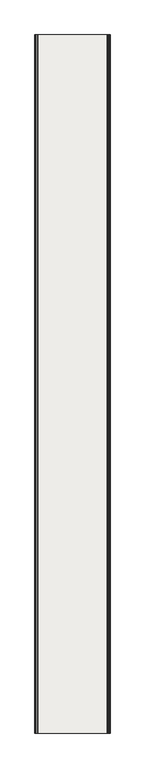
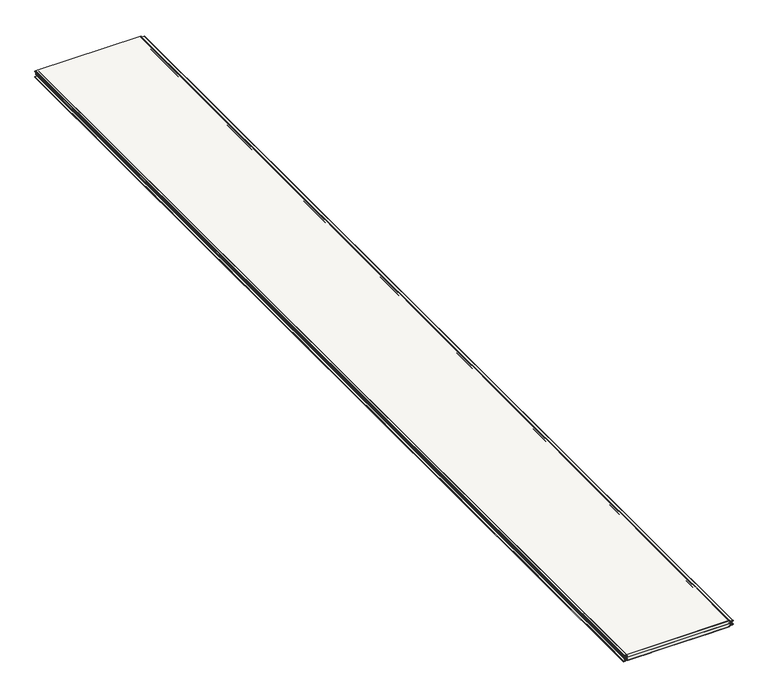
"""IFC4 building model written with IfcOpenShell, lengths in millimetres: covering geometry, Wall sandwich panel SPW-S CORE PIR (single sheet) : -."""

from ifc_helpers import new_model, si_unit, point, frame, frame_2d, origin, place, context, project, spatial, polyline, circle_curve, trimmed, segment, composite_curve, outline, extrude, source, transform, mapped, element, save
from ifc_brep_helpers import plane_surface, cylinder_surface, revolved_surface, advanced_brep


def covering_5f1da1b8(model_context):
    return source(origin(), model_context, "Body", "SolidModel", [
        extrude(outline(composite_curve([segment(trimmed(circle_curve(frame_2d((-37.0000044, -662.3240515)), 1.9999956), [point((-39.0, -662.3240515))], [point((-35.0012272, -662.3938538))], True, "CARTESIAN"), True, "CONTINUOUS"), segment(polyline([(-35.0012272, -662.3938538), (-34.4480424, -646.5535063)]), True, "CONTINUOUS"), segment(trimmed(circle_curve(frame_2d((-29.950784, -646.7105619)), 4.5), [point((-34.4480424, -646.5535063))], [point((-25.4569506, -646.4750579))], False, "CARTESIAN"), True, "CONTINUOUS"), segment(polyline([(-25.4569506, -646.4750579), (-24.890434, -657.2852006)]), True, "CONTINUOUS"), segment(trimmed(circle_curve(frame_2d((-23.3924895, -657.2066993)), 1.5), [point((-24.890434, -657.2852006))], [point((-23.3924895, -658.7066993))], True, "CARTESIAN"), True, "CONTINUOUS"), segment(polyline([(-23.3924895, -658.7066993), (-20.8924895, -658.7066993), (-20.8924895, -659.7066993), (-23.3924895, -659.7066993)]), True, "CONTINUOUS"), segment(trimmed(circle_curve(frame_2d((-23.3924895, -657.2066993)), 2.5), [point((-23.3924895, -659.7066993))], [point((-25.8890636, -657.3375349))], False, "CARTESIAN"), True, "CONTINUOUS"), segment(polyline([(-25.8890636, -657.3375349), (-26.4555803, -646.5273922)]), True, "CONTINUOUS"), segment(trimmed(circle_curve(frame_2d((-29.950784, -646.7105619)), 3.5), [point((-26.4555803, -646.5273922))], [point((-33.4486516, -646.5884076))], True, "CARTESIAN"), True, "CONTINUOUS"), segment(polyline([(-33.4486516, -646.5884076), (-34.0018364, -662.4287551)]), True, "CONTINUOUS"), segment(trimmed(circle_curve(frame_2d((-37.0000044, -662.3240515)), 2.9999956), [point((-34.0018364, -662.4287551))], [point((-40.0, -662.3240515))], False, "CARTESIAN"), True, "CONTINUOUS"), segment(polyline([(-40.0, -662.3240515), (-40.0, -660.2066993), (-39.0, -660.2066993), (-39.0, -662.3240515)]), True, "CONTINUOUS")], self_intersect=False)), frame((0.0, -6000.0, 0.0), z_axis=(0.0, 1.0, 0.0), x_axis=(0.0, 0.0, 1.0)), (0.0, 0.0, 1.0), 6000.0),
        extrude(outline(composite_curve([segment(polyline([(-1.0, -662.3240515), (-1.0, -660.2066993), (0.0, -660.2066993), (0.0, -662.3240515)]), True, "CONTINUOUS"), segment(trimmed(circle_curve(frame_2d((-2.9999956, -662.3240515)), 2.9999956), [point((0.0, -662.3240515))], [point((-5.9981636, -662.4287551))], False, "CARTESIAN"), True, "CONTINUOUS"), segment(polyline([(-5.9981636, -662.4287551), (-6.5513484, -646.5884076)]), True, "CONTINUOUS"), segment(trimmed(circle_curve(frame_2d((-10.049216, -646.7105619)), 3.5), [point((-6.5513484, -646.5884076))], [point((-13.5444197, -646.5273922))], True, "CARTESIAN"), True, "CONTINUOUS"), segment(polyline([(-13.5444197, -646.5273922), (-14.1109364, -657.3375349)]), True, "CONTINUOUS"), segment(trimmed(circle_curve(frame_2d((-16.6075105, -657.2066993)), 2.5), [point((-14.1109364, -657.3375349))], [point((-16.6075105, -659.7066993))], False, "CARTESIAN"), True, "CONTINUOUS"), segment(polyline([(-16.6075105, -659.7066993), (-19.1075105, -659.7066993), (-19.1075105, -658.7066993), (-16.6075105, -658.7066993)]), True, "CONTINUOUS"), segment(trimmed(circle_curve(frame_2d((-16.6075105, -657.2066993)), 1.5), [point((-16.6075105, -658.7066993))], [point((-15.109566, -657.2852006))], True, "CARTESIAN"), True, "CONTINUOUS"), segment(polyline([(-15.109566, -657.2852006), (-14.5430494, -646.4750579)]), True, "CONTINUOUS"), segment(trimmed(circle_curve(frame_2d((-10.049216, -646.7105619)), 4.5), [point((-14.5430494, -646.4750579))], [point((-5.5519576, -646.5535063))], False, "CARTESIAN"), True, "CONTINUOUS"), segment(polyline([(-5.5519576, -646.5535063), (-4.9987728, -662.3938538)]), True, "CONTINUOUS"), segment(trimmed(circle_curve(frame_2d((-2.9999956, -662.3240515)), 1.9999956), [point((-4.9987728, -662.3938538))], [point((-1.0, -662.3240515))], True, "CARTESIAN"), True, "CONTINUOUS")], self_intersect=False)), frame((0.0, -6000.0, 0.0), z_axis=(0.0, 1.0, 0.0), x_axis=(0.0, 0.0, 1.0)), (0.0, 0.0, 1.0), 6000.0),
        advanced_brep(
        [(-43.1186621, 0.0, -39.0), (-41.1186621, 0.0, -37.0), (-41.1186621, 0.0, -34.93), (-39.1884611, 0.0, -32.9312183), (-22.5992017, 0.0, -32.3519086), (-22.43132, 0.0, -27.5379716), (-33.6570079, 0.0, -26.9496582), (-36.5, 0.0, -23.9537696), (-36.5, 0.0, -21.4537696), (-35.5, 0.0, -21.4537696), (-35.5, 0.0, -23.9537696), (-33.6046719, 0.0, -25.9510287), (-22.6550677, 0.0, -26.5248731), (-22.6835162, 0.0, -33.3501612), (-39.1535616, 0.0, -33.9306092), (-40.1186621, 0.0, -34.93), (-40.1186621, 0.0, -37.0), (-43.1186621, 0.0, -40.0), (-90.0275239, 0.0, -40.0), (-91.4098003, 0.0, -39.6), (-135.6275239, 0.0, -39.6), (-137.0098003, 0.0, -40.0), (-181.2275239, 0.0, -40.0), (-182.6098003, 0.0, -39.6), (-226.8275239, 0.0, -39.6), (-228.2098003, 0.0, -40.0), (-272.4275239, 0.0, -40.0), (-273.8098003, 0.0, -39.6), (-318.0275239, 0.0, -39.6), (-319.4098003, 0.0, -40.0), (-363.6275239, 0.0, -40.0), (-365.0098003, 0.0, -39.6), (-409.2275239, 0.0, -39.6), (-410.6098003, 0.0, -40.0), (-454.8275239, 0.0, -40.0), (-456.2098003, 0.0, -39.6), (-500.4275239, 0.0, -39.6), (-501.8098003, 0.0, -40.0), (-546.0275239, 0.0, -40.0), (-547.4098003, 0.0, -39.6), (-591.6275239, 0.0, -39.6), (-593.0098003, 0.0, -40.0), (-637.2275239, 0.0, -40.0), (-638.6098003, 0.0, -39.6), (-660.2066993, 0.0, -39.6), (-660.2066993, 0.0, -39.0), (-638.6098003, -6000.0, -39.6), (-637.2275239, -6000.0, -40.0), (-593.0098003, -6000.0, -40.0), (-591.6275239, -6000.0, -39.6), (-547.4098003, -6000.0, -39.6), (-546.0275239, -6000.0, -40.0), (-501.8098003, -6000.0, -40.0), (-500.4275239, -6000.0, -39.6), (-456.2098003, -6000.0, -39.6), (-454.8275239, -6000.0, -40.0), (-410.6098003, -6000.0, -40.0), (-409.2275239, -6000.0, -39.6), (-365.0098003, -6000.0, -39.6), (-363.6275239, -6000.0, -40.0), (-319.4098003, -6000.0, -40.0), (-318.0275239, -6000.0, -39.6), (-273.8098003, -6000.0, -39.6), (-272.4275239, -6000.0, -40.0), (-228.2098003, -6000.0, -40.0), (-226.8275239, -6000.0, -39.6), (-182.6098003, -6000.0, -39.6), (-181.2275239, -6000.0, -40.0), (-137.0098003, -6000.0, -40.0), (-135.6275239, -6000.0, -39.6), (-91.4098003, -6000.0, -39.6), (-90.0275239, -6000.0, -40.0), (-43.1186621, -6000.0, -40.0), (-40.1186621, -6000.0, -37.0), (-40.1186621, -6000.0, -34.93), (-39.1535616, -6000.0, -33.9306092), (-22.7218558, -6000.0, -33.3568014), (-22.6550677, -6000.0, -26.5248731), (-33.6046719, -6000.0, -25.9510287), (-35.5, -6000.0, -23.9537696), (-35.5, -6000.0, -21.4537696), (-36.5, -6000.0, -21.4537696), (-36.5, -6000.0, -23.9537696), (-33.6570079, -6000.0, -26.9496582), (-22.43132, -6000.0, -27.5379716), (-22.5993141, -6000.0, -32.3486915), (-39.1884611, -6000.0, -32.9312183), (-41.1186621, -6000.0, -34.93), (-41.1186621, -6000.0, -37.0), (-43.1186621, -6000.0, -39.0), (-660.2066993, -6000.0, -39.0), (-660.2066993, -6000.0, -39.6)],
        [
            (0, 1, circle_curve(frame((-43.1186621, 0.0, -37.0), z_axis=(0.0, -1.0, 0.0), x_axis=(1.0, 0.0, 0.0)), 2.0)),
            (1, 2),
            (2, 3, circle_curve(frame((-39.1186621, 0.0, -34.93), z_axis=(0.0, 1.0, 0.0), x_axis=(1.0, 0.0, 0.0)), 2.0)),
            (3, 4),
            (4, 5, circle_curve(frame((-22.6835162, 0.0, -29.9374579), z_axis=(0.0, -1.0, 0.0), x_axis=(1.0, 0.0, 0.0)), 2.4127033)),
            (5, 6),
            (6, 7, circle_curve(frame((-33.5, 0.0, -23.9537696), z_axis=(0.0, 1.0, 0.0), x_axis=(1.0, 0.0, 0.0)), 3.0)),
            (7, 8),
            (8, 9),
            (9, 10),
            (10, 11, circle_curve(frame((-33.5, 0.0, -23.9537696), z_axis=(0.0, -1.0, 0.0), x_axis=(1.0, 0.0, 0.0)), 2.0)),
            (11, 12),
            (12, 13, circle_curve(frame((-22.6835162, 0.0, -29.9374579), z_axis=(0.0, 1.0, 0.0), x_axis=(1.0, 0.0, 0.0)), 3.4127033)),
            (13, 14),
            (14, 15, circle_curve(frame((-39.1186621, 0.0, -34.93), z_axis=(0.0, -1.0, 0.0), x_axis=(1.0, 0.0, 0.0)), 1.0)),
            (15, 16),
            (16, 17, circle_curve(frame((-43.1186621, 0.0, -37.0), z_axis=(0.0, 1.0, 0.0), x_axis=(1.0, 0.0, 0.0)), 3.0)),
            (17, 18),
            (18, 19),
            (19, 20),
            (20, 21),
            (21, 22),
            (22, 23),
            (23, 24),
            (24, 25),
            (25, 26),
            (26, 27),
            (27, 28),
            (28, 29),
            (29, 30),
            (30, 31),
            (31, 32),
            (32, 33),
            (33, 34),
            (34, 35),
            (35, 36),
            (36, 37),
            (37, 38),
            (38, 39),
            (39, 40),
            (40, 41),
            (41, 42),
            (42, 43),
            (43, 44),
            (44, 45),
            (45, 0),
            (46, 47),
            (47, 48),
            (48, 49),
            (49, 50),
            (50, 51),
            (51, 52),
            (52, 53),
            (53, 54),
            (54, 55),
            (55, 56),
            (56, 57),
            (57, 58),
            (58, 59),
            (59, 60),
            (60, 61),
            (61, 62),
            (62, 63),
            (63, 64),
            (64, 65),
            (65, 66),
            (66, 67),
            (67, 68),
            (68, 69),
            (69, 70),
            (70, 71),
            (71, 72),
            (72, 73, circle_curve(frame((-43.1186621, -6000.0, -37.0), z_axis=(0.0, -1.0, 0.0), x_axis=(1.0, 0.0, 0.0)), 3.0)),
            (73, 74),
            (74, 75, circle_curve(frame((-39.1186621, -6000.0, -34.93), z_axis=(0.0, 1.0, 0.0), x_axis=(1.0, 0.0, 0.0)), 1.0)),
            (75, 76),
            (76, 77, circle_curve(frame((-22.6835162, -6000.0, -29.9374579), z_axis=(0.0, -1.0, 0.0), x_axis=(1.0, 0.0, 0.0)), 3.4127033)),
            (77, 78),
            (78, 79, circle_curve(frame((-33.5, -6000.0, -23.9537696), z_axis=(0.0, 1.0, 0.0), x_axis=(1.0, 0.0, 0.0)), 2.0)),
            (79, 80),
            (80, 81),
            (81, 82),
            (82, 83, circle_curve(frame((-33.5, -6000.0, -23.9537696), z_axis=(0.0, -1.0, 0.0), x_axis=(1.0, 0.0, 0.0)), 3.0)),
            (83, 84),
            (84, 85, circle_curve(frame((-22.6835162, -6000.0, -29.9374579), z_axis=(0.0, 1.0, 0.0), x_axis=(1.0, 0.0, 0.0)), 2.4127033)),
            (85, 86),
            (86, 87, circle_curve(frame((-39.1186621, -6000.0, -34.93), z_axis=(0.0, -1.0, 0.0), x_axis=(1.0, 0.0, 0.0)), 2.0)),
            (87, 88),
            (88, 89, circle_curve(frame((-43.1186621, -6000.0, -37.0), z_axis=(0.0, 1.0, 0.0), x_axis=(1.0, 0.0, 0.0)), 2.0)),
            (89, 90),
            (90, 91),
            (91, 46),
            (89, 0),
            (45, 90),
            (2, 87),
            (86, 3),
            (1, 88),
            (85, 4),
            (5, 84),
            (83, 6),
            (82, 7),
            (81, 8),
            (80, 9),
            (16, 73),
            (72, 17),
            (15, 74),
            (14, 75),
            (13, 76),
            (11, 78),
            (77, 12),
            (10, 79),
            (71, 18),
            (70, 19),
            (69, 20),
            (68, 21),
            (67, 22),
            (66, 23),
            (65, 24),
            (64, 25),
            (63, 26),
            (62, 27),
            (61, 28),
            (60, 29),
            (59, 30),
            (58, 31),
            (57, 32),
            (56, 33),
            (55, 34),
            (54, 35),
            (53, 36),
            (52, 37),
            (51, 38),
            (50, 39),
            (49, 40),
            (48, 41),
            (47, 42),
            (46, 43),
            (91, 44),
        ],
        [
            plane_surface(frame((-35.0, 0.0, -40.0), z_axis=(0.0, 1.0, 0.0), x_axis=(1.0, 0.0, 0.0))),
            plane_surface(frame((-35.0, -6000.0, -40.0), z_axis=(0.0, -1.0, 0.0), x_axis=(1.0, 0.0, 0.0))),
            plane_surface(frame((-1185.0, 0.0, -39.0), z_axis=(0.0, 0.0, 1.0), x_axis=(0.0, -1.0, 0.0))),
            cylinder_surface(frame((-39.1186621, 0.0, -34.93), z_axis=(0.0, 1.0, 0.0), x_axis=(1.0, 0.0, 0.0)), 2.0),
            plane_surface(frame((-41.1186621, 0.0, -37.0), z_axis=(-1.0, 0.0, 0.0), x_axis=(0.0, -1.0, 0.0))),
            revolved_surface(polyline([(-41.1186621, -6000.0, -37.0), (-41.1186621, 0.0, -37.0)]), (-43.1186621, 0.0, -37.0), (0.0, -1.0, 0.0)),
            plane_surface(frame((-39.1884611, 0.0, -32.9312183), z_axis=(-0.03489949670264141, 0.0, 0.9993908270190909), x_axis=(0.0, -1.0, 0.0))),
            plane_surface(frame((-22.43132, 0.0, -27.5379716), z_axis=(-0.052335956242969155, 0.0, -0.9986295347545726), x_axis=(0.0, -1.0, 0.0))),
            cylinder_surface(frame((-33.5, 0.0, -23.9537696), z_axis=(0.0, 1.0, 0.0), x_axis=(1.0, 0.0, 0.0)), 3.0),
            plane_surface(frame((-36.5, 0.0, -23.9537696), z_axis=(-1.0, 0.0, 0.0), x_axis=(0.0, -1.0, 0.0))),
            plane_surface(frame((-36.5, 0.0, -21.4537696), z_axis=(0.0, 0.0, 1.0), x_axis=(0.0, -1.0, 0.0))),
            cylinder_surface(frame((-43.1186621, 0.0, -37.0), z_axis=(0.0, 1.0, 0.0), x_axis=(1.0, 0.0, 0.0)), 3.0),
            plane_surface(frame((-40.1186621, 0.0, -34.93), z_axis=(1.0, 0.0, 0.0), x_axis=(0.0, -1.0, 0.0))),
            revolved_surface(polyline([(-38.1186621, -6000.0, -34.93), (-38.1186621, 0.0, -34.93)]), (-39.1186621, 0.0, -34.93), (0.0, -1.0, 0.0)),
            plane_surface(frame((-22.7218558, 0.0, -33.3568014), z_axis=(0.0348994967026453, 0.0, -0.9993908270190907), x_axis=(0.0, -1.0, 0.0))),
            plane_surface(frame((-33.6046719, 0.0, -25.9510287), z_axis=(0.05233595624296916, 0.0, 0.9986295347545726), x_axis=(0.0, -1.0, 0.0))),
            revolved_surface(polyline([(-31.5, -6000.0, -23.9537696), (-31.5, 0.0, -23.9537696)]), (-33.5, 0.0, -23.9537696), (0.0, -1.0, 0.0)),
            cylinder_surface(frame((-22.6835162, 0.0, -29.9374579), z_axis=(0.0, 1.0, 0.0), x_axis=(1.0, 0.0, 0.0)), 3.4127033),
            revolved_surface(polyline([(-20.2708129, -6000.0, -29.9374579), (-20.2708129, 0.0, -29.9374579)]), (-22.6835162, 0.0, -29.9374579), (0.0, -1.0, 0.0)),
            plane_surface(frame((-35.5, 0.0, -21.4537696), z_axis=(1.0, 0.0, 0.0), x_axis=(0.0, -1.0, 0.0))),
            plane_surface(frame((-43.1186621, 0.0, -40.0), z_axis=(0.0, 0.0, -1.0), x_axis=(0.0, -1.0, 0.0))),
            plane_surface(frame((-90.0275239, 0.0, -40.0), z_axis=(-0.27797301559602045, 0.0, -0.9605888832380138), x_axis=(0.0, -1.0, 0.0))),
            plane_surface(frame((-91.4098003, 0.0, -39.6), z_axis=(0.0, 0.0, -1.0), x_axis=(0.0, -1.0, 0.0))),
            plane_surface(frame((-135.6275239, 0.0, -39.6), z_axis=(0.27797301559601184, 0.0, -0.9605888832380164), x_axis=(0.0, -1.0, 0.0))),
            plane_surface(frame((-137.0098003, 0.0, -40.0), z_axis=(0.0, 0.0, -1.0), x_axis=(0.0, -1.0, 0.0))),
            plane_surface(frame((-181.2275239, 0.0, -40.0), z_axis=(-0.27797301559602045, 0.0, -0.9605888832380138), x_axis=(0.0, -1.0, 0.0))),
            plane_surface(frame((-182.6098003, 0.0, -39.6), z_axis=(0.0, 0.0, -1.0), x_axis=(0.0, -1.0, 0.0))),
            plane_surface(frame((-226.8275239, 0.0, -39.6), z_axis=(0.27797301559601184, 0.0, -0.9605888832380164), x_axis=(0.0, -1.0, 0.0))),
            plane_surface(frame((-228.2098003, 0.0, -40.0), z_axis=(0.0, 0.0, -1.0), x_axis=(0.0, -1.0, 0.0))),
            plane_surface(frame((-272.4275239, 0.0, -40.0), z_axis=(-0.27797301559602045, 0.0, -0.9605888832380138), x_axis=(0.0, -1.0, 0.0))),
            plane_surface(frame((-273.8098003, 0.0, -39.6), z_axis=(0.0, 0.0, -1.0), x_axis=(0.0, -1.0, 0.0))),
            plane_surface(frame((-318.0275239, 0.0, -39.6), z_axis=(0.27797301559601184, 0.0, -0.9605888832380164), x_axis=(0.0, -1.0, 0.0))),
            plane_surface(frame((-319.4098003, 0.0, -40.0), z_axis=(0.0, 0.0, -1.0), x_axis=(0.0, -1.0, 0.0))),
            plane_surface(frame((-363.6275239, 0.0, -40.0), z_axis=(-0.27797301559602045, 0.0, -0.9605888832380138), x_axis=(0.0, -1.0, 0.0))),
            plane_surface(frame((-365.0098003, 0.0, -39.6), z_axis=(0.0, 0.0, -1.0), x_axis=(0.0, -1.0, 0.0))),
            plane_surface(frame((-409.2275239, 0.0, -39.6), z_axis=(0.27797301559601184, 0.0, -0.9605888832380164), x_axis=(0.0, -1.0, 0.0))),
            plane_surface(frame((-410.6098003, 0.0, -40.0), z_axis=(0.0, 0.0, -1.0), x_axis=(0.0, -1.0, 0.0))),
            plane_surface(frame((-454.8275239, 0.0, -40.0), z_axis=(-0.27797301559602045, 0.0, -0.9605888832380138), x_axis=(0.0, -1.0, 0.0))),
            plane_surface(frame((-456.2098003, 0.0, -39.6), z_axis=(0.0, 0.0, -1.0), x_axis=(0.0, -1.0, 0.0))),
            plane_surface(frame((-500.4275239, 0.0, -39.6), z_axis=(0.27797301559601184, 0.0, -0.9605888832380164), x_axis=(0.0, -1.0, 0.0))),
            plane_surface(frame((-501.8098003, 0.0, -40.0), z_axis=(0.0, 0.0, -1.0), x_axis=(0.0, -1.0, 0.0))),
            plane_surface(frame((-546.0275239, 0.0, -40.0), z_axis=(-0.27797301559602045, 0.0, -0.9605888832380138), x_axis=(0.0, -1.0, 0.0))),
            plane_surface(frame((-547.4098003, 0.0, -39.6), z_axis=(0.0, 0.0, -1.0), x_axis=(0.0, -1.0, 0.0))),
            plane_surface(frame((-591.6275239, 0.0, -39.6), z_axis=(0.27797301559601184, 0.0, -0.9605888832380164), x_axis=(0.0, -1.0, 0.0))),
            plane_surface(frame((-593.0098003, 0.0, -40.0), z_axis=(0.0, 0.0, -1.0), x_axis=(0.0, -1.0, 0.0))),
            plane_surface(frame((-637.2275239, 0.0, -40.0), z_axis=(-0.27797301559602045, 0.0, -0.9605888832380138), x_axis=(0.0, -1.0, 0.0))),
            plane_surface(frame((-638.6098003, 0.0, -39.6), z_axis=(0.0, 0.0, -1.0), x_axis=(0.0, -1.0, 0.0))),
            plane_surface(frame((-660.2066993, -6000.0, -41.875), z_axis=(-1.0, 0.0, 0.0), x_axis=(0.0, 1.0, 0.0))),
        ],
        [
            (0, [[1, 2, 3, 4, 5, 6, 7, 8, 9, 10, 11, 12, 13, 14, 15, 16, 17, 18, 19, 20, 21, 22, 23, 24, 25, 26, 27, 28, 29, 30, 31, 32, 33, 34, 35, 36, 37, 38, 39, 40, 41, 42, 43, 44, 45, 46]]),
            (1, [[47, 48, 49, 50, 51, 52, 53, 54, 55, 56, 57, 58, 59, 60, 61, 62, 63, 64, 65, 66, 67, 68, 69, 70, 71, 72, 73, 74, 75, 76, 77, 78, 79, 80, 81, 82, 83, 84, 85, 86, 87, 88, 89, 90, 91, 92]]),
            (2, [[93, -46, 94, -90]]),
            (3, [[-3, 95, -87, 96]]),
            (4, [[-2, 97, -88, -95]]),
            (5, [[-1, -93, -89, -97]]),
            (6, [[-4, -96, -86, 98]]),
            (7, [[-6, 99, -84, 100]]),
            (8, [[-7, -100, -83, 101]]),
            (9, [[-8, -101, -82, 102]]),
            (10, [[-9, -102, -81, 103]]),
            (11, [[-17, 104, -73, 105]]),
            (12, [[-16, 106, -74, -104]]),
            (13, [[-15, 107, -75, -106]]),
            (14, [[-14, 108, -76, -107]]),
            (15, [[-12, 109, -78, 110]]),
            (16, [[-11, 111, -79, -109]]),
            (17, [[-13, -110, -77, -108]]),
            (18, [[-5, -98, -85, -99]]),
            (19, [[-10, -103, -80, -111]]),
            (20, [[-18, -105, -72, 112]]),
            (21, [[-19, -112, -71, 113]]),
            (22, [[-20, -113, -70, 114]]),
            (23, [[-21, -114, -69, 115]]),
            (24, [[-22, -115, -68, 116]]),
            (25, [[-23, -116, -67, 117]]),
            (26, [[-24, -117, -66, 118]]),
            (27, [[-25, -118, -65, 119]]),
            (28, [[-26, -119, -64, 120]]),
            (29, [[-27, -120, -63, 121]]),
            (30, [[-28, -121, -62, 122]]),
            (31, [[-29, -122, -61, 123]]),
            (32, [[-30, -123, -60, 124]]),
            (33, [[-31, -124, -59, 125]]),
            (34, [[-32, -125, -58, 126]]),
            (35, [[-33, -126, -57, 127]]),
            (36, [[-34, -127, -56, 128]]),
            (37, [[-35, -128, -55, 129]]),
            (38, [[-36, -129, -54, 130]]),
            (39, [[-37, -130, -53, 131]]),
            (40, [[-38, -131, -52, 132]]),
            (41, [[-39, -132, -51, 133]]),
            (42, [[-40, -133, -50, 134]]),
            (43, [[-41, -134, -49, 135]]),
            (44, [[-42, -135, -48, 136]]),
            (45, [[-43, -136, -47, 137]]),
            (46, [[-137, -92, 138, -44]]),
            (47, [[-45, -138, -91, -94]]),
        ],
    ),
        advanced_brep(
        [(-660.2066993, 0.0, -1.0), (-660.2066993, 0.0, 0.0), (-43.1186621, 0.0, 0.0), (-40.1186621, 0.0, -3.0), (-40.1186621, 0.0, -5.07), (-39.1535616, 0.0, -6.0693908), (-22.7218558, 0.0, -6.6431986), (-22.6835162, 0.0, -13.4752455), (-33.6046719, 0.0, -14.0489713), (-35.5, 0.0, -16.0462304), (-35.5, 0.0, -18.5462304), (-36.5, 0.0, -18.5462304), (-36.5, 0.0, -16.0462304), (-33.6570079, 0.0, -13.0503418), (-22.43132, 0.0, -12.4620284), (-22.5993141, 0.0, -7.6513085), (-39.1884611, 0.0, -7.0687817), (-41.1186621, 0.0, -5.07), (-41.1186621, 0.0, -3.0), (-43.1186621, 0.0, -1.0), (-660.2066993, -6000.0, -1.0), (-43.1186621, -6000.0, -1.0), (-41.1186621, -6000.0, -3.0), (-41.1186621, -6000.0, -5.07), (-39.1884611, -6000.0, -7.0687817), (-22.5992017, -6000.0, -7.6480914), (-22.43132, -6000.0, -12.4620284), (-33.6570079, -6000.0, -13.0503418), (-36.5, -6000.0, -16.0462304), (-36.5, -6000.0, -18.5462304), (-35.5, -6000.0, -18.5462304), (-35.5, -6000.0, -16.0462304), (-33.6046719, -6000.0, -14.0489713), (-22.6071775, -6000.0, -13.4726171), (-22.6835162, -6000.0, -6.6498388), (-39.1535616, -6000.0, -6.0693908), (-40.1186621, -6000.0, -5.07), (-40.1186621, -6000.0, -3.0), (-43.1186621, -6000.0, 0.0), (-660.2066993, -6000.0, 0.0)],
        [
            (0, 1),
            (1, 2),
            (2, 3, circle_curve(frame((-43.1186621, 0.0, -3.0), z_axis=(0.0, 1.0, 0.0), x_axis=(1.0, 0.0, 0.0)), 3.0)),
            (3, 4),
            (4, 5, circle_curve(frame((-39.1186621, 0.0, -5.07), z_axis=(0.0, -1.0, 0.0), x_axis=(1.0, 0.0, 0.0)), 1.0)),
            (5, 6),
            (6, 7, circle_curve(frame((-22.6835162, 0.0, -10.0625421), z_axis=(0.0, 1.0, 0.0), x_axis=(1.0, 0.0, 0.0)), 3.4127033)),
            (7, 8),
            (8, 9, circle_curve(frame((-33.5, 0.0, -16.0462304), z_axis=(0.0, -1.0, 0.0), x_axis=(1.0, 0.0, 0.0)), 2.0)),
            (9, 10),
            (10, 11),
            (11, 12),
            (12, 13, circle_curve(frame((-33.5, 0.0, -16.0462304), z_axis=(0.0, 1.0, 0.0), x_axis=(1.0, 0.0, 0.0)), 3.0)),
            (13, 14),
            (14, 15, circle_curve(frame((-22.6835162, 0.0, -10.0625421), z_axis=(0.0, -1.0, 0.0), x_axis=(1.0, 0.0, 0.0)), 2.4127033)),
            (15, 16),
            (16, 17, circle_curve(frame((-39.1186621, 0.0, -5.07), z_axis=(0.0, 1.0, 0.0), x_axis=(1.0, 0.0, 0.0)), 2.0)),
            (17, 18),
            (18, 19, circle_curve(frame((-43.1186621, 0.0, -3.0), z_axis=(0.0, -1.0, 0.0), x_axis=(1.0, 0.0, 0.0)), 2.0)),
            (19, 0),
            (20, 21),
            (21, 22, circle_curve(frame((-43.1186621, -6000.0, -3.0), z_axis=(0.0, 1.0, 0.0), x_axis=(1.0, 0.0, 0.0)), 2.0)),
            (22, 23),
            (23, 24, circle_curve(frame((-39.1186621, -6000.0, -5.07), z_axis=(0.0, -1.0, 0.0), x_axis=(1.0, 0.0, 0.0)), 2.0)),
            (24, 25),
            (25, 26, circle_curve(frame((-22.6835162, -6000.0, -10.0625421), z_axis=(0.0, 1.0, 0.0), x_axis=(1.0, 0.0, 0.0)), 2.4127033)),
            (26, 27),
            (27, 28, circle_curve(frame((-33.5, -6000.0, -16.0462304), z_axis=(0.0, -1.0, 0.0), x_axis=(1.0, 0.0, 0.0)), 3.0)),
            (28, 29),
            (29, 30),
            (30, 31),
            (31, 32, circle_curve(frame((-33.5, -6000.0, -16.0462304), z_axis=(0.0, 1.0, 0.0), x_axis=(1.0, 0.0, 0.0)), 2.0)),
            (32, 33),
            (33, 34, circle_curve(frame((-22.6835162, -6000.0, -10.0625421), z_axis=(0.0, -1.0, 0.0), x_axis=(1.0, 0.0, 0.0)), 3.4127033)),
            (34, 35),
            (35, 36, circle_curve(frame((-39.1186621, -6000.0, -5.07), z_axis=(0.0, 1.0, 0.0), x_axis=(1.0, 0.0, 0.0)), 1.0)),
            (36, 37),
            (37, 38, circle_curve(frame((-43.1186621, -6000.0, -3.0), z_axis=(0.0, -1.0, 0.0), x_axis=(1.0, 0.0, 0.0)), 3.0)),
            (38, 39),
            (39, 20),
            (19, 21),
            (20, 0),
            (1, 39),
            (38, 2),
            (16, 24),
            (23, 17),
            (22, 18),
            (15, 25),
            (13, 27),
            (26, 14),
            (10, 30),
            (29, 11),
            (12, 28),
            (4, 36),
            (35, 5),
            (9, 31),
            (8, 32),
            (7, 33),
            (6, 34),
            (37, 3),
        ],
        [
            plane_surface(frame((-35.0, 0.0, -1.0), z_axis=(0.0, 1.0, 0.0), x_axis=(1.0, 0.0, 0.0))),
            plane_surface(frame((-35.0, -6000.0, -1.0), z_axis=(0.0, -1.0, 0.0), x_axis=(1.0, 0.0, 0.0))),
            plane_surface(frame((-43.1186621, 0.0, -1.0), z_axis=(0.0, 0.0, -1.0), x_axis=(0.0, -1.0, 0.0))),
            plane_surface(frame((-660.2066993, 0.0, 0.0), z_axis=(0.0, 0.0, 1.0), x_axis=(0.0, -1.0, 0.0))),
            cylinder_surface(frame((-39.1186621, 0.0, -5.07), z_axis=(0.0, 1.0, 0.0), x_axis=(1.0, 0.0, 0.0)), 2.0),
            plane_surface(frame((-41.1186621, 0.0, -5.07), z_axis=(-1.0, 0.0, 0.0), x_axis=(0.0, -1.0, 0.0))),
            revolved_surface(polyline([(-41.1186621, -6000.0, -3.0), (-41.1186621, 0.0, -3.0)]), (-43.1186621, 0.0, -3.0), (0.0, -1.0, 0.0)),
            plane_surface(frame((-22.5992017, 0.0, -7.6480914), z_axis=(-0.034899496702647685, 0.0, -0.9993908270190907), x_axis=(0.0, -1.0, 0.0))),
            plane_surface(frame((-33.6570079, 0.0, -13.0503418), z_axis=(-0.05233595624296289, 0.0, 0.998629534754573), x_axis=(0.0, -1.0, 0.0))),
            plane_surface(frame((-35.5, 0.0, -18.5462304), z_axis=(0.0, 0.0, -1.0), x_axis=(0.0, -1.0, 0.0))),
            cylinder_surface(frame((-33.5, 0.0, -16.0462304), z_axis=(0.0, 1.0, 0.0), x_axis=(1.0, 0.0, 0.0)), 3.0),
            plane_surface(frame((-36.5, 0.0, -18.5462304), z_axis=(-1.0, 0.0, 0.0), x_axis=(0.0, -1.0, 0.0))),
            revolved_surface(polyline([(-38.1186621, -6000.0, -5.07), (-38.1186621, 0.0, -5.07)]), (-39.1186621, 0.0, -5.07), (0.0, -1.0, 0.0)),
            plane_surface(frame((-35.5, 0.0, -16.0462304), z_axis=(1.0, 0.0, 0.0), x_axis=(0.0, -1.0, 0.0))),
            revolved_surface(polyline([(-31.5, -6000.0, -16.0462304), (-31.5, 0.0, -16.0462304)]), (-33.5, 0.0, -16.0462304), (0.0, -1.0, 0.0)),
            plane_surface(frame((-22.6071775, 0.0, -13.4726171), z_axis=(0.052335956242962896, 0.0, -0.998629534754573), x_axis=(0.0, -1.0, 0.0))),
            revolved_surface(polyline([(-20.2708129, -6000.0, -10.0625421), (-20.2708129, 0.0, -10.0625421)]), (-22.6835162, 0.0, -10.0625421), (0.0, -1.0, 0.0)),
            cylinder_surface(frame((-22.6835162, 0.0, -10.0625421), z_axis=(0.0, 1.0, 0.0), x_axis=(1.0, 0.0, 0.0)), 3.4127033),
            plane_surface(frame((-660.2066993, 0.0, -1.0), z_axis=(-1.0, 0.0, 0.0), x_axis=(0.0, -1.0, 0.0))),
            cylinder_surface(frame((-43.1186621, 0.0, -3.0), z_axis=(0.0, 1.0, 0.0), x_axis=(1.0, 0.0, 0.0)), 3.0),
            plane_surface(frame((-40.1186621, 0.0, -3.0), z_axis=(1.0, 0.0, 0.0), x_axis=(0.0, -1.0, 0.0))),
            plane_surface(frame((-39.1535616, 0.0, -6.0693908), z_axis=(0.03489949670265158, 0.0, 0.9993908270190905), x_axis=(0.0, -1.0, 0.0))),
        ],
        [
            (0, [[1, 2, 3, 4, 5, 6, 7, 8, 9, 10, 11, 12, 13, 14, 15, 16, 17, 18, 19, 20]]),
            (1, [[21, 22, 23, 24, 25, 26, 27, 28, 29, 30, 31, 32, 33, 34, 35, 36, 37, 38, 39, 40]]),
            (2, [[-20, 41, -21, 42]]),
            (3, [[-2, 43, -39, 44]]),
            (4, [[-17, 45, -24, 46]]),
            (5, [[-18, -46, -23, 47]]),
            (6, [[-19, -47, -22, -41]]),
            (7, [[-16, 48, -25, -45]]),
            (8, [[-14, 49, -27, 50]]),
            (9, [[-11, 51, -30, 52]]),
            (10, [[-13, 53, -28, -49]]),
            (11, [[-12, -52, -29, -53]]),
            (12, [[-5, 54, -36, 55]]),
            (13, [[-10, 56, -31, -51]]),
            (14, [[-9, 57, -32, -56]]),
            (15, [[-8, 58, -33, -57]]),
            (16, [[-15, -50, -26, -48]]),
            (17, [[-7, 59, -34, -58]]),
            (18, [[-1, -42, -40, -43]]),
            (19, [[-3, -44, -38, 60]]),
            (20, [[-4, -60, -37, -54]]),
            (21, [[-6, -55, -35, -59]]),
        ],
    ),
        advanced_brep(
        [(-662.3938538, -6000.0, -35.0012272), (-662.3938538, 0.0, -35.0012272), (-662.3240515, 0.0, -39.0), (-662.3240515, -6000.0, -39.0), (-646.5535063, -6000.0, -34.4480424), (-646.5535063, 0.0, -34.4480424), (-646.4750579, -6000.0, -25.4569506), (-646.4750579, 0.0, -25.4569506), (-657.2852006, -6000.0, -24.890434), (-657.2852006, 0.0, -24.890434), (-658.7066993, -6000.0, -23.3924895), (-658.7066993, 0.0, -23.3924895), (-658.7066993, -6000.0, -20.0), (-658.7066993, 0.0, -20.0), (-660.2066993, -6000.0, -39.0), (-44.6192414, -6000.0, -39.0), (-43.1186621, -6000.0, -39.0), (-41.1186621, -6000.0, -37.0), (-41.1186621, -6000.0, -34.93), (-39.1884611, -6000.0, -32.9312183), (-22.5992017, -6000.0, -32.3519086), (-22.1786572, -6000.0, -27.5781667), (-33.6570078, -6000.0, -26.9496582), (-36.5, -6000.0, -23.9537696), (-36.5, -6000.0, -20.0), (-660.2066993, 0.0, -39.0), (-36.5, 0.0, -20.0), (-36.5, 0.0, -23.9537696), (-33.6570078, 0.0, -26.9496582), (-22.1786572, 0.0, -27.5781667), (-22.5993141, 0.0, -32.3486915), (-39.1884611, 0.0, -32.9312183), (-41.1186621, 0.0, -34.93), (-41.1186621, 0.0, -37.0), (-43.1186621, 0.0, -39.0), (-44.6192414, 0.0, -39.0)],
        [
            (0, 1),
            (1, 2, circle_curve(frame((-662.3240515, 0.0, -37.0000044), z_axis=(0.0, -1.0, 0.0), x_axis=(-1.0, 0.0, 0.0)), 1.9999956)),
            (2, 3),
            (3, 0, circle_curve(frame((-662.3240515, -6000.0, -37.0000044), z_axis=(0.0, 1.0, 0.0), x_axis=(-1.0, 0.0, 0.0)), 1.9999956)),
            (0, 4),
            (4, 5),
            (5, 1),
            (4, 6, circle_curve(frame((-646.7105619, -6000.0, -29.950784), z_axis=(0.0, -1.0, 0.0), x_axis=(-1.0, 0.0, 0.0)), 4.5)),
            (6, 7),
            (7, 5, circle_curve(frame((-646.7105619, 0.0, -29.950784), z_axis=(0.0, 1.0, 0.0), x_axis=(-1.0, 0.0, 0.0)), 4.5)),
            (6, 8),
            (8, 9),
            (9, 7),
            (8, 10, circle_curve(frame((-657.2066993, -6000.0, -23.3924895), z_axis=(0.0, 1.0, 0.0), x_axis=(-1.0, 0.0, 0.0)), 1.5)),
            (10, 11),
            (11, 9, circle_curve(frame((-657.2066993, 0.0, -23.3924895), z_axis=(0.0, -1.0, 0.0), x_axis=(-1.0, 0.0, 0.0)), 1.5)),
            (10, 12),
            (12, 13),
            (13, 11),
            (3, 14),
            (14, 15),
            (15, 16),
            (16, 17, circle_curve(frame((-43.1186621, -6000.0, -37.0), z_axis=(0.0, -1.0, 0.0), x_axis=(-1.0, 0.0, 0.0)), 2.0)),
            (17, 18),
            (18, 19, circle_curve(frame((-39.1186621, -6000.0, -34.93), z_axis=(0.0, 1.0, 0.0), x_axis=(-1.0, 0.0, 0.0)), 2.0)),
            (19, 20),
            (20, 21, circle_curve(frame((-22.6835162, -6000.0, -29.9374579), z_axis=(0.0, -1.0, 0.0), x_axis=(-1.0, 0.0, 0.0)), 2.4127033)),
            (21, 22),
            (22, 23, circle_curve(frame((-33.5, -6000.0, -23.9537696), z_axis=(0.0, 1.0, 0.0), x_axis=(-1.0, 0.0, 0.0)), 3.0)),
            (23, 24),
            (24, 12),
            (25, 2),
            (13, 26),
            (26, 27),
            (27, 28, circle_curve(frame((-33.5, 0.0, -23.9537696), z_axis=(0.0, -1.0, 0.0), x_axis=(-1.0, 0.0, 0.0)), 3.0)),
            (28, 29),
            (29, 30, circle_curve(frame((-22.6835162, 0.0, -29.9374579), z_axis=(0.0, 1.0, 0.0), x_axis=(-1.0, 0.0, 0.0)), 2.4127033)),
            (30, 31),
            (31, 32, circle_curve(frame((-39.1186621, 0.0, -34.93), z_axis=(0.0, -1.0, 0.0), x_axis=(-1.0, 0.0, 0.0)), 2.0)),
            (32, 33),
            (33, 34, circle_curve(frame((-43.1186621, 0.0, -37.0), z_axis=(0.0, 1.0, 0.0), x_axis=(-1.0, 0.0, 0.0)), 2.0)),
            (34, 35),
            (35, 25),
            (24, 26),
            (34, 16),
            (23, 27),
            (22, 28),
            (21, 29),
            (20, 30),
            (19, 31),
            (18, 32),
            (17, 33),
        ],
        [
            cylinder_surface(frame((-662.3240515, -6000.0, -37.0000044), z_axis=(0.0, 1.0, 0.0), x_axis=(-1.0, 0.0, 0.0)), 1.9999956),
            plane_surface(frame((-662.3938538, -6000.0, -35.0012272), z_axis=(-0.034901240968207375, 0.0, 0.9993907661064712), x_axis=(0.0, 1.0, 0.0))),
            revolved_surface(polyline([(-651.2105619, -6000.0, -29.950784), (-651.2105619, 0.0, -29.950784)]), (-646.7105619, -6000.0, -29.950784), (0.0, -1.0, 0.0)),
            plane_surface(frame((-646.4750579, -6000.0, -25.4569506), z_axis=(-0.05233421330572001, 0.0, -0.9986296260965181), x_axis=(0.0, 1.0, 0.0))),
            cylinder_surface(frame((-657.2066993, -6000.0, -23.3924895), z_axis=(0.0, 1.0, 0.0), x_axis=(-1.0, 0.0, 0.0)), 1.5),
            plane_surface(frame((-658.7066993, -6000.0, -23.3924895), z_axis=(-1.0, 0.0, 0.0), x_axis=(0.0, 1.0, 0.0))),
            plane_surface(frame((-690.2066993, -6000.0, -20.0), z_axis=(0.0, -1.0, 0.0), x_axis=(-1.0, 0.0, 0.0))),
            plane_surface(frame((-690.2066993, 0.0, -20.0), z_axis=(0.0, 1.0, 0.0), x_axis=(1.0, 0.0, 0.0))),
            plane_surface(frame((15.0, -6000.0, -20.0), z_axis=(0.0, 0.0, 1.0), x_axis=(0.0, 1.0, 0.0))),
            plane_surface(frame((-690.2066993, -6000.0, -39.0), z_axis=(0.0, 0.0, -1.0), x_axis=(0.0, 1.0, 0.0))),
            plane_surface(frame((-36.5, -6000.0, -16.0462304), z_axis=(1.0, 0.0, 0.0), x_axis=(0.0, 1.0, 0.0))),
            revolved_surface(polyline([(-36.5, -6000.0, -23.9537696), (-36.5, 0.0, -23.9537696)]), (-33.5, -6000.0, -23.9537696), (0.0, -1.0, 0.0)),
            plane_surface(frame((-33.6570078, -6000.0, -26.9496582), z_axis=(0.05467409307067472, 0.0, 0.9985042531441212), x_axis=(0.0, 1.0, 0.0))),
            cylinder_surface(frame((-22.6835162, -6000.0, -29.9374579), z_axis=(0.0, 1.0, 0.0), x_axis=(-1.0, 0.0, 0.0)), 2.4127033),
            plane_surface(frame((-22.5992017, -6000.0, -32.3519086), z_axis=(0.03489949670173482, 0.0, -0.9993908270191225), x_axis=(0.0, 1.0, 0.0))),
            revolved_surface(polyline([(-41.1186621, -6000.0, -34.93), (-41.1186621, 0.0, -34.93)]), (-39.1186621, -6000.0, -34.93), (0.0, -1.0, 0.0)),
            plane_surface(frame((-41.1186621, -6000.0, -34.93), z_axis=(1.0, 0.0, 0.0), x_axis=(0.0, 1.0, 0.0))),
            cylinder_surface(frame((-43.1186621, -6000.0, -37.0), z_axis=(0.0, 1.0, 0.0), x_axis=(-1.0, 0.0, 0.0)), 2.0),
        ],
        [
            (0, [[1, 2, 3, 4]]),
            (1, [[-1, 5, 6, 7]]),
            (2, [[-6, 8, 9, 10]]),
            (3, [[-9, 11, 12, 13]]),
            (4, [[-12, 14, 15, 16]]),
            (5, [[-15, 17, 18, 19]]),
            (6, [[20, 21, 22, 23, 24, 25, 26, 27, 28, 29, 30, 31, -17, -14, -11, -8, -5, -4]]),
            (7, [[32, -2, -7, -10, -13, -16, -19, 33, 34, 35, 36, 37, 38, 39, 40, 41, 42, 43]]),
            (8, [[-18, -31, 44, -33]]),
            (9, [[-20, -3, -32, -43, -42, 45, -22, -21]]),
            (10, [[46, -34, -44, -30]]),
            (11, [[-46, -29, 47, -35]]),
            (12, [[-47, -28, 48, -36]]),
            (13, [[-48, -27, 49, -37]]),
            (14, [[-49, -26, 50, -38]]),
            (15, [[-50, -25, 51, -39]]),
            (16, [[-51, -24, 52, -40]]),
            (17, [[-52, -23, -45, -41]]),
        ],
    ),
        advanced_brep(
        [(-660.2066993, -6000.0, -1.0), (-662.3240515, -6000.0, -1.0), (-662.3938538, -6000.0, -4.9987728), (-646.5535063, -6000.0, -5.5519576), (-646.4750579, -6000.0, -14.5430494), (-657.2852006, -6000.0, -15.109566), (-658.7066993, -6000.0, -16.6075105), (-658.7066993, -6000.0, -20.0), (-36.5, -6000.0, -20.0), (-36.5, -6000.0, -16.0462304), (-33.6570079, -6000.0, -13.0503418), (-22.43132, -6000.0, -12.4620284), (-22.5993141, -6000.0, -7.6513085), (-39.1884611, -6000.0, -7.0687817), (-41.1186621, -6000.0, -5.07), (-41.1186621, -6000.0, -3.0), (-43.1186621, -6000.0, -1.0), (-662.3240515, 0.0, -1.0), (-660.2066993, 0.0, -1.0), (-43.1186621, 0.0, -1.0), (-41.1186621, 0.0, -3.0), (-41.1186621, 0.0, -5.07), (-39.1884611, 0.0, -7.0687817), (-22.5992017, 0.0, -7.6480914), (-22.43132, 0.0, -12.4620284), (-33.6570079, 0.0, -13.0503418), (-36.5, 0.0, -16.0462304), (-36.5, 0.0, -20.0), (-658.7066993, 0.0, -20.0), (-658.7066993, 0.0, -16.6075105), (-657.2852006, 0.0, -15.109566), (-646.4750579, 0.0, -14.5430494), (-646.5535063, 0.0, -5.5519576), (-662.3938538, 0.0, -4.9987728)],
        [
            (0, 1),
            (1, 2, circle_curve(frame((-662.3240515, -6000.0, -2.9999956), z_axis=(0.0, -1.0, 0.0), x_axis=(-1.0, 0.0, 0.0)), 1.9999956)),
            (2, 3),
            (3, 4, circle_curve(frame((-646.7105619, -6000.0, -10.049216), z_axis=(0.0, 1.0, 0.0), x_axis=(-1.0, 0.0, 0.0)), 4.5)),
            (4, 5),
            (5, 6, circle_curve(frame((-657.2066993, -6000.0, -16.6075105), z_axis=(0.0, -1.0, 0.0), x_axis=(-1.0, 0.0, 0.0)), 1.5)),
            (6, 7),
            (7, 8),
            (8, 9),
            (9, 10, circle_curve(frame((-33.5, -6000.0, -16.0462304), z_axis=(0.0, 1.0, 0.0), x_axis=(-1.0, 0.0, 0.0)), 3.0)),
            (10, 11),
            (11, 12, circle_curve(frame((-22.6835162, -6000.0, -10.0625421), z_axis=(0.0, -1.0, 0.0), x_axis=(-1.0, 0.0, 0.0)), 2.4127033)),
            (12, 13),
            (13, 14, circle_curve(frame((-39.1186621, -6000.0, -5.07), z_axis=(0.0, 1.0, 0.0), x_axis=(-1.0, 0.0, 0.0)), 2.0)),
            (14, 15),
            (15, 16, circle_curve(frame((-43.1186621, -6000.0, -3.0), z_axis=(0.0, -1.0, 0.0), x_axis=(-1.0, 0.0, 0.0)), 2.0)),
            (16, 0),
            (17, 18),
            (18, 19),
            (19, 20, circle_curve(frame((-43.1186621, 0.0, -3.0), z_axis=(0.0, 1.0, 0.0), x_axis=(-1.0, 0.0, 0.0)), 2.0)),
            (20, 21),
            (21, 22, circle_curve(frame((-39.1186621, 0.0, -5.07), z_axis=(0.0, -1.0, 0.0), x_axis=(-1.0, 0.0, 0.0)), 2.0)),
            (22, 23),
            (23, 24, circle_curve(frame((-22.6835162, 0.0, -10.0625421), z_axis=(0.0, 1.0, 0.0), x_axis=(-1.0, 0.0, 0.0)), 2.4127033)),
            (24, 25),
            (25, 26, circle_curve(frame((-33.5, 0.0, -16.0462304), z_axis=(0.0, -1.0, 0.0), x_axis=(-1.0, 0.0, 0.0)), 3.0)),
            (26, 27),
            (27, 28),
            (28, 29),
            (29, 30, circle_curve(frame((-657.2066993, 0.0, -16.6075105), z_axis=(0.0, 1.0, 0.0), x_axis=(-1.0, 0.0, 0.0)), 1.5)),
            (30, 31),
            (31, 32, circle_curve(frame((-646.7105619, 0.0, -10.049216), z_axis=(0.0, -1.0, 0.0), x_axis=(-1.0, 0.0, 0.0)), 4.5)),
            (32, 33),
            (33, 17, circle_curve(frame((-662.3240515, 0.0, -2.9999956), z_axis=(0.0, 1.0, 0.0), x_axis=(-1.0, 0.0, 0.0)), 1.9999956)),
            (16, 19),
            (17, 1),
            (7, 28),
            (27, 8),
            (6, 29),
            (5, 30),
            (4, 31),
            (3, 32),
            (2, 33),
            (15, 20),
            (14, 21),
            (13, 22),
            (12, 23),
            (11, 24),
            (10, 25),
            (9, 26),
        ],
        [
            plane_surface(frame((-690.2066993, -6000.0, -1.0), z_axis=(0.0, -1.0, 0.0), x_axis=(-1.0, 0.0, 0.0))),
            plane_surface(frame((-690.2066993, 0.0, -1.0), z_axis=(0.0, 1.0, 0.0), x_axis=(1.0, 0.0, 0.0))),
            plane_surface(frame((15.0, -6000.0, -1.0), z_axis=(0.0, 0.0, 1.0), x_axis=(0.0, 1.0, 0.0))),
            plane_surface(frame((-690.2066993, -6000.0, -20.0), z_axis=(0.0, 0.0, -1.0), x_axis=(0.0, 1.0, 0.0))),
            plane_surface(frame((-658.7066993, -6000.0, -23.3924895), z_axis=(-1.0, 0.0, 0.0), x_axis=(0.0, 1.0, 0.0))),
            cylinder_surface(frame((-657.2066993, -6000.0, -16.6075105), z_axis=(0.0, 1.0, 0.0), x_axis=(-1.0, 0.0, 0.0)), 1.5),
            plane_surface(frame((-657.2852006, -6000.0, -15.109566), z_axis=(-0.052334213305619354, 0.0, 0.9986296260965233), x_axis=(0.0, 1.0, 0.0))),
            revolved_surface(polyline([(-651.2105619, -6000.0, -10.049216), (-651.2105619, 0.0, -10.049216)]), (-646.7105619, -6000.0, -10.049216), (0.0, -1.0, 0.0)),
            plane_surface(frame((-646.5535063, -6000.0, -5.5519576), z_axis=(-0.03490124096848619, 0.0, -0.9993907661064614), x_axis=(0.0, 1.0, 0.0))),
            cylinder_surface(frame((-662.3240515, -6000.0, -2.9999956), z_axis=(0.0, 1.0, 0.0), x_axis=(-1.0, 0.0, 0.0)), 1.9999956),
            cylinder_surface(frame((-43.1186621, -6000.0, -3.0), z_axis=(0.0, 1.0, 0.0), x_axis=(-1.0, 0.0, 0.0)), 2.0),
            plane_surface(frame((-41.1186621, -6000.0, -3.0), z_axis=(1.0, 0.0, 0.0), x_axis=(0.0, 1.0, 0.0))),
            revolved_surface(polyline([(-41.1186621, -6000.0, -5.07), (-41.1186621, 0.0, -5.07)]), (-39.1186621, -6000.0, -5.07), (0.0, -1.0, 0.0)),
            plane_surface(frame((-39.1884611, -6000.0, -7.0687817), z_axis=(0.03489949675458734, 0.0, 0.9993908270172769), x_axis=(0.0, 1.0, 0.0))),
            cylinder_surface(frame((-22.6835162, -6000.0, -10.0625421), z_axis=(0.0, 1.0, 0.0), x_axis=(-1.0, 0.0, 0.0)), 2.4127033),
            plane_surface(frame((-22.43132, -6000.0, -12.4620284), z_axis=(0.05233595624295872, 0.0, -0.9986295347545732), x_axis=(0.0, 1.0, 0.0))),
            revolved_surface(polyline([(-36.5, -6000.0, -16.0462304), (-36.5, 0.0, -16.0462304)]), (-33.5, -6000.0, -16.0462304), (0.0, -1.0, 0.0)),
            plane_surface(frame((-36.5, -6000.0, -16.0462304), z_axis=(1.0, 0.0, 0.0), x_axis=(0.0, 1.0, 0.0))),
        ],
        [
            (0, [[1, 2, 3, 4, 5, 6, 7, 8, 9, 10, 11, 12, 13, 14, 15, 16, 17]]),
            (1, [[18, 19, 20, 21, 22, 23, 24, 25, 26, 27, 28, 29, 30, 31, 32, 33, 34]]),
            (2, [[-1, -17, 35, -19, -18, 36]]),
            (3, [[37, -28, 38, -8]]),
            (4, [[39, -29, -37, -7]]),
            (5, [[-39, -6, 40, -30]]),
            (6, [[-40, -5, 41, -31]]),
            (7, [[-41, -4, 42, -32]]),
            (8, [[-42, -3, 43, -33]]),
            (9, [[-43, -2, -36, -34]]),
            (10, [[44, -20, -35, -16]]),
            (11, [[-44, -15, 45, -21]]),
            (12, [[-45, -14, 46, -22]]),
            (13, [[-46, -13, 47, -23]]),
            (14, [[-47, -12, 48, -24]]),
            (15, [[-48, -11, 49, -25]]),
            (16, [[-49, -10, 50, -26]]),
            (17, [[-50, -9, -38, -27]]),
        ],
    ),
    ])


if __name__ == "__main__":
    model = new_model("IFC4")
    model_context = context("Model", 3, world=origin())
    ifc_project = project(units=[si_unit("LENGTHUNIT", "METRE", prefix="MILLI")], contexts=[model_context])
    site = spatial("IfcSite", under=ifc_project)
    building = spatial("IfcBuilding", under=site)
    placement = place(None, origin())
    covering_shape = covering_5f1da1b8(model_context)
    element("IfcCovering", 1, ObjectType="Wall sandwich panel SPW-S CORE PIR (single sheet) : -", at=placement, inside=building, context=model_context, shape_type="MappedRepresentation", body=[
        mapped(covering_shape, transform((0.0, 0.0, 0.0), x_axis=(1.0, 0.0, 0.0), y_axis=(0.0, 1.0, 0.0), z_axis=(0.0, 0.0, 1.0))),
    ])
    save(model, "model.ifc")
